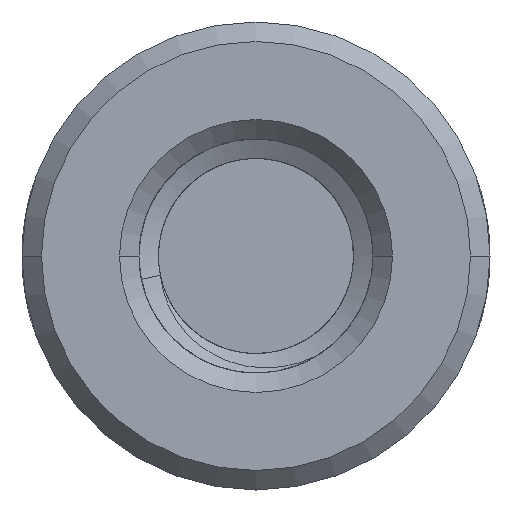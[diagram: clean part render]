
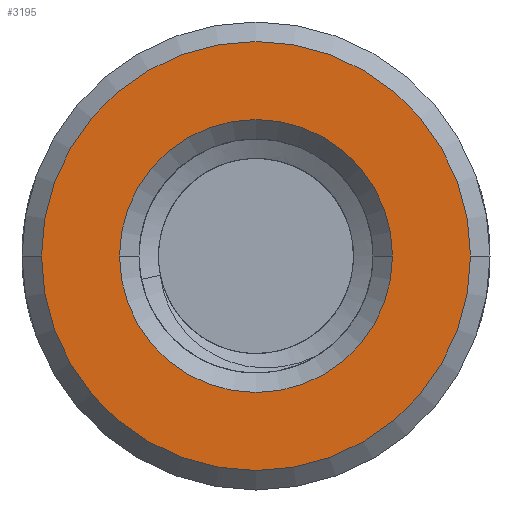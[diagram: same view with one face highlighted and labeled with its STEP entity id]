
A CAD part, front view. The second image highlights one B-rep face of the part: STEP entity #3195.
In plain terms, the highlighted planar face has unit normal (0, -1, 0).
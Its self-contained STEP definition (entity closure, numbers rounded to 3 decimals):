
#1=CARTESIAN_POINT('',(0.,0.,0.));
#2=DIRECTION('',(0.,1.,0.));
#3=DIRECTION('',(-1.,0.,0.));
#4=AXIS2_PLACEMENT_3D('',#1,#2,#3);
#6=CARTESIAN_POINT('',(0.,0.,0.));
#7=DIRECTION('',(0.,1.,0.));
#8=DIRECTION('',(1.,0.,0.));
#9=AXIS2_PLACEMENT_3D('',#6,#7,#8);
#11=CARTESIAN_POINT('',(0.,0.,0.));
#12=DIRECTION('',(0.,-1.,0.));
#13=DIRECTION('',(-1.,0.,0.));
#14=AXIS2_PLACEMENT_3D('',#11,#12,#13);
#16=CARTESIAN_POINT('',(0.,0.,0.));
#17=DIRECTION('',(0.,-1.,0.));
#18=DIRECTION('',(1.,0.,0.));
#19=AXIS2_PLACEMENT_3D('',#16,#17,#18);
#3114=CARTESIAN_POINT('',(-3.5,0.,0.));
#3115=CARTESIAN_POINT('',(3.5,0.,0.));
#3116=VERTEX_POINT('',#3114);
#3117=VERTEX_POINT('',#3115);
#3122=CARTESIAN_POINT('',(-5.5,0.,0.));
#3123=CARTESIAN_POINT('',(5.5,0.,0.));
#3124=VERTEX_POINT('',#3122);
#3125=VERTEX_POINT('',#3123);
#3178=CARTESIAN_POINT('',(0.,0.,0.));
#3179=DIRECTION('',(0.,1.,0.));
#3180=DIRECTION('',(1.,0.,0.));
#3181=AXIS2_PLACEMENT_3D('',#3178,#3179,#3180);
#3182=PLANE('',#3181);
#3184=ORIENTED_EDGE('',*,*,#3183,.F.);
#3186=ORIENTED_EDGE('',*,*,#3185,.F.);
#3187=EDGE_LOOP('',(#3184,#3186));
#3188=FACE_OUTER_BOUND('',#3187,.F.);
#3190=ORIENTED_EDGE('',*,*,#3189,.F.);
#3192=ORIENTED_EDGE('',*,*,#3191,.F.);
#3193=EDGE_LOOP('',(#3190,#3192));
#3194=FACE_BOUND('',#3193,.F.);
#3195=ADVANCED_FACE('',(#3188,#3194),#3182,.F.);
#5=CIRCLE('',#4,3.5);
#10=CIRCLE('',#9,3.5);
#15=CIRCLE('',#14,5.5);
#20=CIRCLE('',#19,5.5);
#3183=EDGE_CURVE('',#3124,#3125,#15,.T.);
#3185=EDGE_CURVE('',#3125,#3124,#20,.T.);
#3189=EDGE_CURVE('',#3116,#3117,#5,.T.);
#3191=EDGE_CURVE('',#3117,#3116,#10,.T.);
